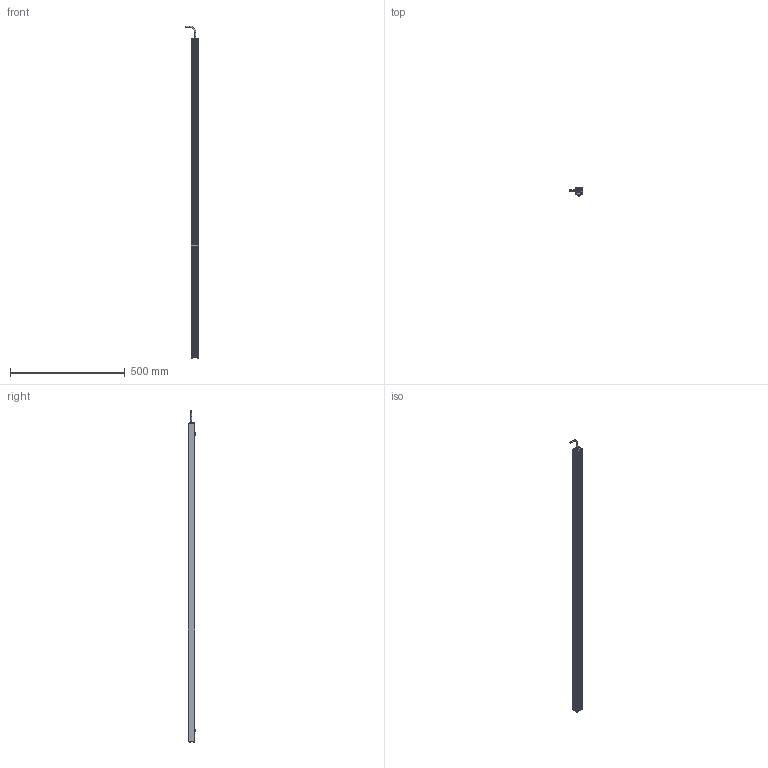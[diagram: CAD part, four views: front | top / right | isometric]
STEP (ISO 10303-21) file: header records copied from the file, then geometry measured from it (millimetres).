
FILE_DESCRIPTION (( 'STEP AP214' ), '1' );
FILE_NAME ('AL150XXXX_AL150318.stp', '2021-04-29T15:41:42', ( '' ), ( '' ), 'SwSTEP 2.0', 'SolidWorks 2018', '' );
FILE_SCHEMA (( 'AUTOMOTIVE_DESIGN' ));
Length unit declared in the file: inch
Products named in the file (12): Part1^AL150XXXX; HN-M6_90592A016; 092408_TRUNCATED; 150-01-005-XXX_150-01-005-318; Part2^AL150XXXX; 150-03-006-XXXX_150-03-006-318; 1157 (no strap); 093145_93701A253; 116-02-007; 116-02-006; AL150XXXX_AL150318; CHM6x8_91460A312
Assembly tree (18 placements, depth 2):
  Part1^AL150XXXX
  Part2^AL150XXXX
  AL150XXXX_AL150318
    150-01-005-XXX_150-01-005-318
    116-02-006
    093145_93701A253  x8
    HN-M6_90592A016  x2
    CHM6x8_91460A312  x2
    150-03-006-XXXX_150-03-006-318
    116-02-007
    1157 (no strap)
    092408_TRUNCATED
Bounding box: 60.68 x 33.84 x 1448.99 mm (x, y, z)
Volume: 432073.6 mm3; surface area: 457098.6 mm2
Topology: 26 solids, 26 shells, 1306 faces, 3436 edges, 2127 vertices
Faces by surface type: cylinder 805, cone 249, plane 153, torus 59, bspline 32, sphere 8
Entity records: 18285 total; most frequent: CARTESIAN_POINT 6069, ORIENTED_EDGE 2496, DIRECTION 2311, EDGE_CURVE 1248, AXIS2_PLACEMENT_3D 881, VERTEX_POINT 800, VECTOR 549, LINE 549
